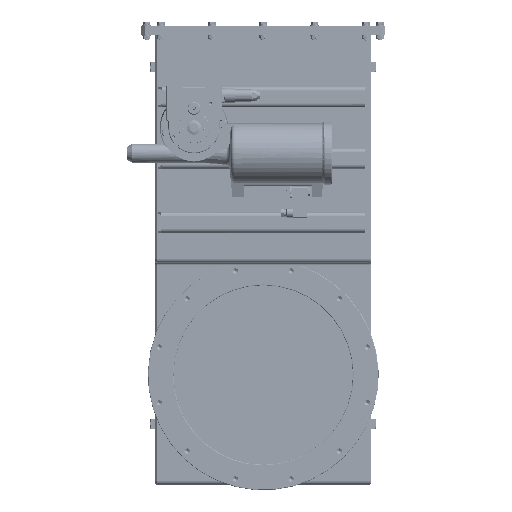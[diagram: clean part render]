
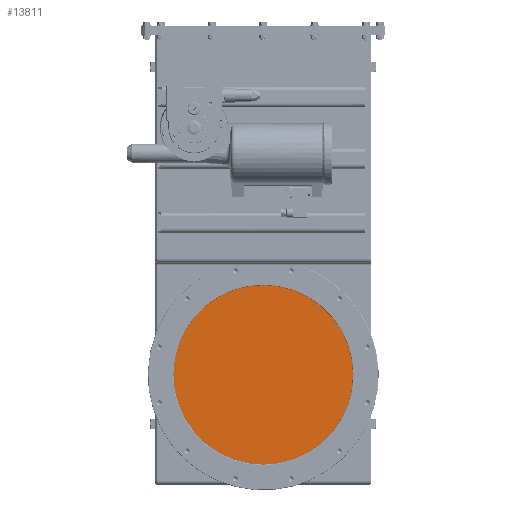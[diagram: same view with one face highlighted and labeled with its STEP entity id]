
A CAD part, top view. The second image highlights one B-rep face of the part: STEP entity #13811.
In plain terms, the highlighted planar face has unit normal (0, 0, 1).
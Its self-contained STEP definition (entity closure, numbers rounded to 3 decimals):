
#10893=FACE_OUTER_BOUND('',#22454,.T.);
#12251=PLANE('',#42970);
#13811=ADVANCED_FACE('',(#10893),#12251,.F.);
#22454=EDGE_LOOP('',(#27082));
#25323=CIRCLE('',#42967,186.);
#27082=ORIENTED_EDGE('',*,*,#38579,.F.);
#35528=VERTEX_POINT('',#57375);
#38579=EDGE_CURVE('',#35528,#35528,#25323,.T.);
#42967=AXIS2_PLACEMENT_3D('',#57374,#46862,#46863);
#42970=AXIS2_PLACEMENT_3D('',#57378,#46868,#46869);
#46862=DIRECTION('',(0.,0.,-1.));
#46863=DIRECTION('',(1.,0.,0.));
#46868=DIRECTION('',(0.,0.,-1.));
#46869=DIRECTION('',(-1.,0.,0.));
#57374=CARTESIAN_POINT('',(-663.303,-0.004,18.85));
#57375=CARTESIAN_POINT('',(-477.303,-0.004,18.85));
#57378=CARTESIAN_POINT('',(-663.303,-0.004,18.85));
